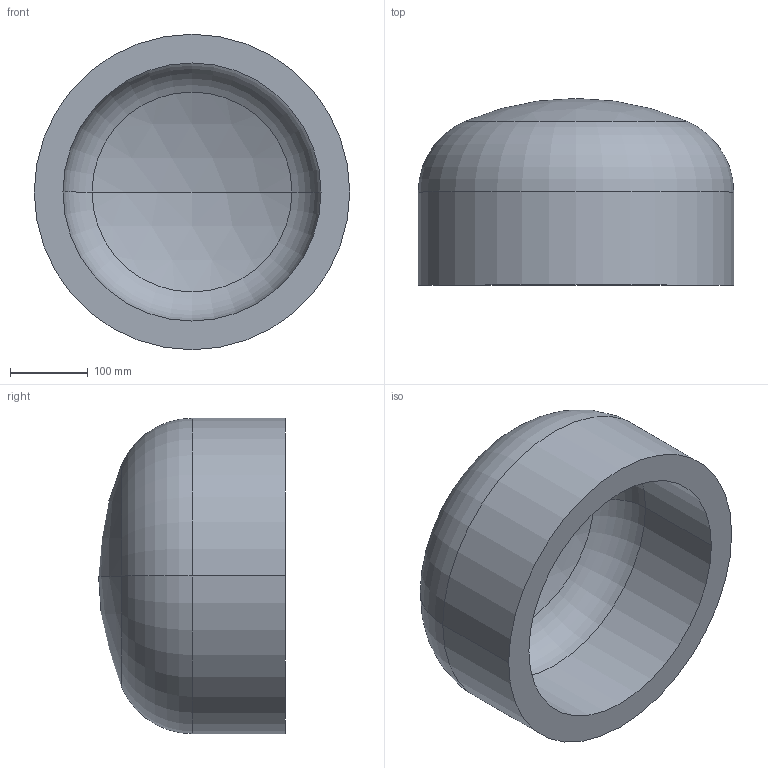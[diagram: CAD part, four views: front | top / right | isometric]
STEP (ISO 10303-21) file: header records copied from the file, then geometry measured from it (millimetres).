
FILE_DESCRIPTION (( 'STEP AP203' ), '1' );
FILE_NAME ('DIN 28013 Korbbogenform_-_Boden DIN 28013 - 406,4 x 120 - I - s=37.step', '2016-07-01T07:50:40', ( '' ), ( '' ), 'SwSTEP 2.0', 'SolidWorks 2013', '' );
FILE_SCHEMA (( 'CONFIG_CONTROL_DESIGN' ));
Length unit declared in the file: millimetre
Products named in the file (1): DIN 28013 Korbbogenform_-_Boden DIN 28013 - 406,4 x 120 - I - s=37
Bounding box: 406.4 x 240.52 x 406.4 mm (x, y, z)
Volume: 11075897.7 mm3; surface area: 644503 mm2
Topology: 1 solids, 1 shells, 13 faces, 24 edges, 14 vertices
Faces by surface type: torus 4, cylinder 4, sphere 4, plane 1
Entity records: 407 total; most frequent: DIRECTION 72, CARTESIAN_POINT 52, ORIENTED_EDGE 48, AXIS2_PLACEMENT_3D 34, EDGE_CURVE 24, CIRCLE 20, EDGE_LOOP 14, VERTEX_POINT 14
